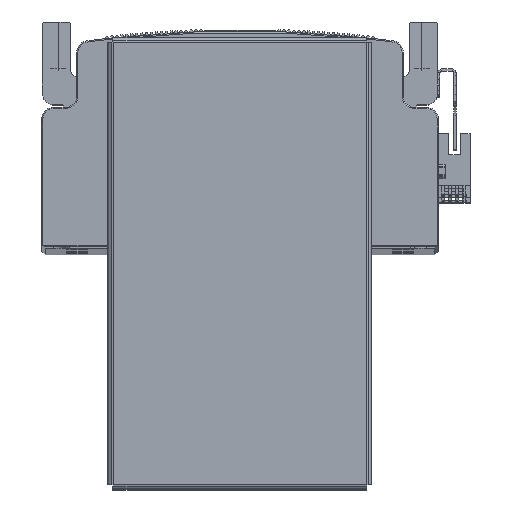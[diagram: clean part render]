
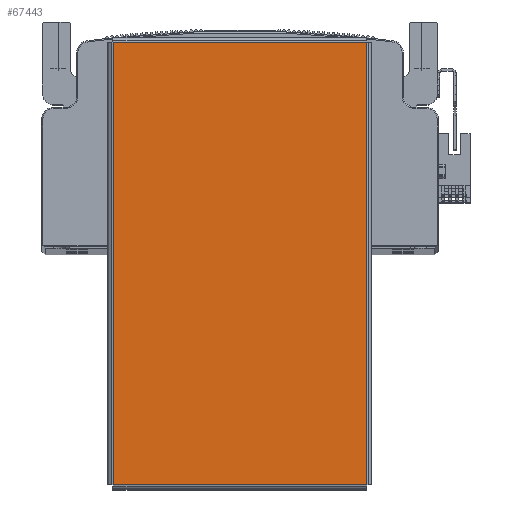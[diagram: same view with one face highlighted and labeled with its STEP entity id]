
A CAD part, top view. The second image highlights one B-rep face of the part: STEP entity #67443.
In plain terms, the highlighted planar face has unit normal (0, 0, 1) as drawn and (0, -1, 0) by its records, which use the part's own axes.
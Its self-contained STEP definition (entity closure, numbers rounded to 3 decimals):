
#1853 = VERTEX_POINT ( 'NONE', #57725 ) ;
#1862 = VERTEX_POINT ( 'NONE', #57771 ) ;
#1876 = VERTEX_POINT ( 'NONE', #57732 ) ;
#1894 = VERTEX_POINT ( 'NONE', #57774 ) ;
#8794 = FACE_OUTER_BOUND ( 'NONE', #50678, .T. ) ;
#10014 = DIRECTION ( 'NONE',  ( 0., 0., 1. ) ) ;
#10020 = PLANE ( 'NONE',  #36264 ) ;
#10028 = CARTESIAN_POINT ( 'NONE',  ( 0., -1.5, 0. ) ) ;
#10036 = DIRECTION ( 'NONE',  ( 0., 1., 0. ) ) ;
#36264 = AXIS2_PLACEMENT_3D ( 'NONE', #10028, #10036, #10014 ) ;
#50678 = EDGE_LOOP ( 'NONE', ( #61311, #61297, #61339, #61283 ) ) ;
#54265 = EDGE_CURVE ( 'NONE', #1862, #1894, #65583, .T. ) ;
#54311 = EDGE_CURVE ( 'NONE', #1876, #1862, #65702, .T. ) ;
#54317 = EDGE_CURVE ( 'NONE', #1853, #1876, #65785, .T. ) ;
#54335 = EDGE_CURVE ( 'NONE', #1894, #1853, #65844, .T. ) ;
#57725 = CARTESIAN_POINT ( 'NONE',  ( -94.763, -1.5, 54.363 ) ) ;
#57732 = CARTESIAN_POINT ( 'NONE',  ( -94.763, -1.5, -54.363 ) ) ;
#57771 = CARTESIAN_POINT ( 'NONE',  ( 94.763, -1.5, -54.363 ) ) ;
#57774 = CARTESIAN_POINT ( 'NONE',  ( 94.763, -1.5, 54.363 ) ) ;
#61283 = ORIENTED_EDGE ( 'NONE', *, *, #54265, .T. ) ;
#61297 = ORIENTED_EDGE ( 'NONE', *, *, #54317, .T. ) ;
#61311 = ORIENTED_EDGE ( 'NONE', *, *, #54335, .T. ) ;
#61339 = ORIENTED_EDGE ( 'NONE', *, *, #54311, .T. ) ;
#65510 = VECTOR ( 'NONE', #67934, 1000. ) ;
#65583 = LINE ( 'NONE', #67947, #65510 ) ;
#65680 = VECTOR ( 'NONE', #68054, 1000. ) ;
#65702 = LINE ( 'NONE', #68012, #65680 ) ;
#65710 = VECTOR ( 'NONE', #68064, 1000. ) ;
#65785 = LINE ( 'NONE', #68063, #65710 ) ;
#65835 = VECTOR ( 'NONE', #68136, 1000. ) ;
#65844 = LINE ( 'NONE', #68115, #65835 ) ;
#67443 = ADVANCED_FACE ( 'NONE', ( #8794 ), #10020, .F. ) ;
#67934 = DIRECTION ( 'NONE',  ( 0., 0., 1. ) ) ;
#67947 = CARTESIAN_POINT ( 'NONE',  ( 94.763, -1.5, -54.393 ) ) ;
#68012 = CARTESIAN_POINT ( 'NONE',  ( -94.793, -1.5, -54.363 ) ) ;
#68054 = DIRECTION ( 'NONE',  ( 1., 0., 0. ) ) ;
#68063 = CARTESIAN_POINT ( 'NONE',  ( -94.763, -1.5, 54.393 ) ) ;
#68064 = DIRECTION ( 'NONE',  ( 0., 0., -1. ) ) ;
#68115 = CARTESIAN_POINT ( 'NONE',  ( 94.793, -1.5, 54.363 ) ) ;
#68136 = DIRECTION ( 'NONE',  ( -1., 0., 0. ) ) ;
